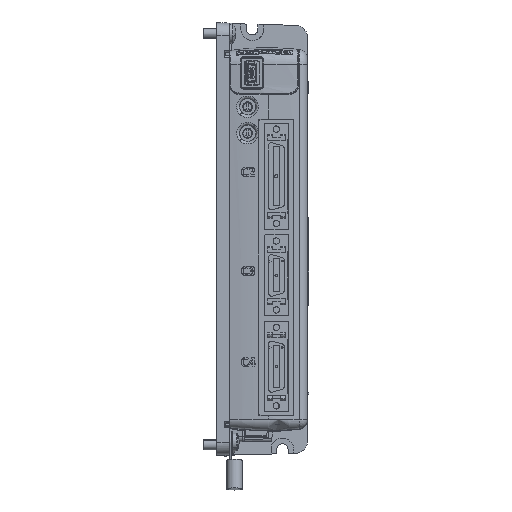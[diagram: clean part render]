
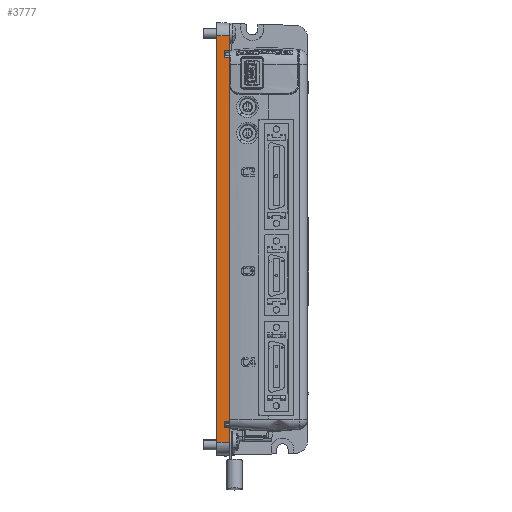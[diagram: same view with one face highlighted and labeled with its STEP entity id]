
A CAD part, top view. The second image highlights one B-rep face of the part: STEP entity #3777.
In plain terms, the highlighted planar face has unit normal (0.026, 0, 1) as drawn and (0, -1, -0.026) by its records, which use the part's own axes.
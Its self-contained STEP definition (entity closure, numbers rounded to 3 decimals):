
#748 = VERTEX_POINT ( 'NONE', #77170 ) ;
#3251 = EDGE_CURVE ( 'NONE', #148213, #67464, #72705, .T. ) ;
#3777 = ADVANCED_FACE ( 'NONE', ( #61213 ), #234085, .T. ) ;
#4356 = VERTEX_POINT ( 'NONE', #123699 ) ;
#6774 = EDGE_CURVE ( 'NONE', #103702, #136891, #91687, .T. ) ;
#7336 = DIRECTION ( 'NONE',  ( -1., 0., 0. ) ) ;
#9013 = VECTOR ( 'NONE', #21072, 1000. ) ;
#19668 = VECTOR ( 'NONE', #185370, 1000. ) ;
#20713 = ORIENTED_EDGE ( 'NONE', *, *, #59423, .T. ) ;
#21072 = DIRECTION ( 'NONE',  ( 1., 0., 0. ) ) ;
#24141 = EDGE_CURVE ( 'NONE', #40042, #132070, #110255, .T. ) ;
#34806 = LINE ( 'NONE', #153740, #106791 ) ;
#35782 = CARTESIAN_POINT ( 'NONE',  ( 98.853, 39.243, 19.856 ) ) ;
#38498 = DIRECTION ( 'NONE',  ( 0.052, -0.026, 0.998 ) ) ;
#40042 = VERTEX_POINT ( 'NONE', #184123 ) ;
#40893 = CARTESIAN_POINT ( 'NONE',  ( 85.59, 39.261, 19.162 ) ) ;
#45867 = DIRECTION ( 'NONE',  ( 0.052, -0.026, 0.998 ) ) ;
#50671 = DIRECTION ( 'NONE',  ( 0.026, -0.026, 0.999 ) ) ;
#53106 = CARTESIAN_POINT ( 'NONE',  ( 246.285, 39.209, 21.162 ) ) ;
#53124 = CARTESIAN_POINT ( 'NONE',  ( 85.59, 39.261, 19.162 ) ) ;
#53185 = LINE ( 'NONE', #40893, #58960 ) ;
#58960 = VECTOR ( 'NONE', #187387, 1000. ) ;
#59423 = EDGE_CURVE ( 'NONE', #146005, #200710, #101013, .T. ) ;
#61213 = FACE_OUTER_BOUND ( 'NONE', #191282, .T. ) ;
#64221 = ORIENTED_EDGE ( 'NONE', *, *, #218284, .F. ) ;
#66163 = ORIENTED_EDGE ( 'NONE', *, *, #24141, .F. ) ;
#67464 = VERTEX_POINT ( 'NONE', #121245 ) ;
#68734 = CARTESIAN_POINT ( 'NONE',  ( 246.39, 39.261, 19.162 ) ) ;
#69199 = EDGE_CURVE ( 'NONE', #124368, #103702, #53185, .T. ) ;
#72705 = LINE ( 'NONE', #144319, #127473 ) ;
#75390 = EDGE_CURVE ( 'NONE', #4356, #132070, #160190, .T. ) ;
#75835 = DIRECTION ( 'NONE',  ( -1., 0., 0. ) ) ;
#76365 = CARTESIAN_POINT ( 'NONE',  ( 98.89, 39.261, 19.162 ) ) ;
#77170 = CARTESIAN_POINT ( 'NONE',  ( 90.588, 39.261, 19.162 ) ) ;
#82588 = VECTOR ( 'NONE', #45867, 1000. ) ;
#83855 = ORIENTED_EDGE ( 'NONE', *, *, #145643, .T. ) ;
#88591 = ORIENTED_EDGE ( 'NONE', *, *, #206005, .T. ) ;
#89196 = CARTESIAN_POINT ( 'NONE',  ( 252.177, 39.375, 14.802 ) ) ;
#91687 = LINE ( 'NONE', #221093, #134918 ) ;
#99704 = CARTESIAN_POINT ( 'NONE',  ( 96.161, 39.276, 18.608 ) ) ;
#101013 = LINE ( 'NONE', #164348, #9013 ) ;
#103702 = VERTEX_POINT ( 'NONE', #145649 ) ;
#106791 = VECTOR ( 'NONE', #7336, 1000. ) ;
#110255 = LINE ( 'NONE', #112054, #127617 ) ;
#111510 = CARTESIAN_POINT ( 'NONE',  ( 96.295, 39.209, 21.162 ) ) ;
#112054 = CARTESIAN_POINT ( 'NONE',  ( 85.59, 39.209, 21.162 ) ) ;
#112468 = ORIENTED_EDGE ( 'NONE', *, *, #3251, .F. ) ;
#117508 = CARTESIAN_POINT ( 'NONE',  ( 245.95, 39.041, 27.56 ) ) ;
#117808 = CARTESIAN_POINT ( 'NONE',  ( 90.457, 39.13, 24.162 ) ) ;
#118971 = VERTEX_POINT ( 'NONE', #53106 ) ;
#121245 = CARTESIAN_POINT ( 'NONE',  ( 252.422, 39.13, 24.162 ) ) ;
#123462 = DIRECTION ( 'NONE',  ( 1., 0., 0. ) ) ;
#123699 = CARTESIAN_POINT ( 'NONE',  ( 96.19, 39.261, 19.162 ) ) ;
#124368 = VERTEX_POINT ( 'NONE', #76365 ) ;
#124680 = ORIENTED_EDGE ( 'NONE', *, *, #69199, .T. ) ;
#125522 = DIRECTION ( 'NONE',  ( 0., -1., -0.026 ) ) ;
#127473 = VECTOR ( 'NONE', #123462, 1000. ) ;
#127617 = VECTOR ( 'NONE', #75835, 1000. ) ;
#131905 = ORIENTED_EDGE ( 'NONE', *, *, #188019, .T. ) ;
#132070 = VERTEX_POINT ( 'NONE', #111510 ) ;
#134918 = VECTOR ( 'NONE', #38498, 1000. ) ;
#134983 = ORIENTED_EDGE ( 'NONE', *, *, #75390, .T. ) ;
#136866 = LINE ( 'NONE', #190448, #174324 ) ;
#136891 = VERTEX_POINT ( 'NONE', #163469 ) ;
#137666 = LINE ( 'NONE', #35782, #169307 ) ;
#144319 = CARTESIAN_POINT ( 'NONE',  ( 85.59, 39.13, 24.162 ) ) ;
#145643 = EDGE_CURVE ( 'NONE', #148213, #748, #136866, .T. ) ;
#145649 = CARTESIAN_POINT ( 'NONE',  ( 243.69, 39.261, 19.162 ) ) ;
#146005 = VERTEX_POINT ( 'NONE', #68734 ) ;
#148213 = VERTEX_POINT ( 'NONE', #117808 ) ;
#150642 = CARTESIAN_POINT ( 'NONE',  ( 85.59, 39.261, 19.162 ) ) ;
#151981 = EDGE_CURVE ( 'NONE', #118971, #146005, #225054, .T. ) ;
#152190 = LINE ( 'NONE', #150642, #19668 ) ;
#153740 = CARTESIAN_POINT ( 'NONE',  ( 85.59, 39.209, 21.162 ) ) ;
#154164 = EDGE_CURVE ( 'NONE', #748, #4356, #152190, .T. ) ;
#155849 = LINE ( 'NONE', #89196, #170128 ) ;
#160190 = LINE ( 'NONE', #99704, #82588 ) ;
#161858 = VECTOR ( 'NONE', #173844, 1000. ) ;
#163469 = CARTESIAN_POINT ( 'NONE',  ( 243.795, 39.209, 21.162 ) ) ;
#164348 = CARTESIAN_POINT ( 'NONE',  ( 85.59, 39.261, 19.162 ) ) ;
#169307 = VECTOR ( 'NONE', #180658, 1000. ) ;
#170128 = VECTOR ( 'NONE', #50671, 1000. ) ;
#173844 = DIRECTION ( 'NONE',  ( 0.052, 0.026, -0.998 ) ) ;
#174324 = VECTOR ( 'NONE', #189614, 1000. ) ;
#180658 = DIRECTION ( 'NONE',  ( 0.052, 0.026, -0.998 ) ) ;
#181887 = DIRECTION ( 'NONE',  ( 0., 0.026, -1. ) ) ;
#184123 = CARTESIAN_POINT ( 'NONE',  ( 98.785, 39.209, 21.162 ) ) ;
#184637 = CARTESIAN_POINT ( 'NONE',  ( 252.292, 39.261, 19.162 ) ) ;
#185370 = DIRECTION ( 'NONE',  ( 1., 0., 0. ) ) ;
#187387 = DIRECTION ( 'NONE',  ( 1., 0., 0. ) ) ;
#188019 = EDGE_CURVE ( 'NONE', #200710, #67464, #155849, .T. ) ;
#188891 = ORIENTED_EDGE ( 'NONE', *, *, #151981, .T. ) ;
#189614 = DIRECTION ( 'NONE',  ( 0.026, 0.026, -0.999 ) ) ;
#190448 = CARTESIAN_POINT ( 'NONE',  ( 90.585, 39.258, 19.292 ) ) ;
#191282 = EDGE_LOOP ( 'NONE', ( #64221, #188891, #20713, #131905, #112468, #83855, #210444, #134983, #66163, #88591, #124680, #196295 ) ) ;
#196295 = ORIENTED_EDGE ( 'NONE', *, *, #6774, .T. ) ;
#200710 = VERTEX_POINT ( 'NONE', #184637 ) ;
#206005 = EDGE_CURVE ( 'NONE', #40042, #124368, #137666, .T. ) ;
#210444 = ORIENTED_EDGE ( 'NONE', *, *, #154164, .T. ) ;
#218284 = EDGE_CURVE ( 'NONE', #118971, #136891, #34806, .T. ) ;
#221093 = CARTESIAN_POINT ( 'NONE',  ( 243.257, 39.477, 10.904 ) ) ;
#225054 = LINE ( 'NONE', #117508, #161858 ) ;
#232036 = AXIS2_PLACEMENT_3D ( 'NONE', #53124, #125522, #181887 ) ;
#234085 = PLANE ( 'NONE',  #232036 ) ;
